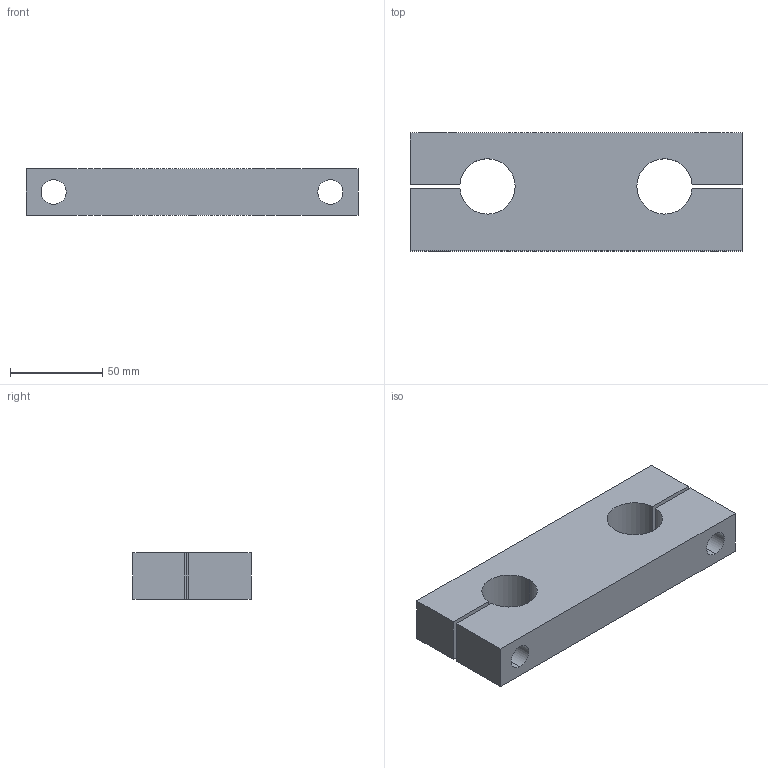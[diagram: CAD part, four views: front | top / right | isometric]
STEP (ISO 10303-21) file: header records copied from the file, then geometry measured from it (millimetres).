
FILE_DESCRIPTION (( 'STEP AP214' ), '1' );
FILE_NAME ('KTA-30.step', '2020-03-04T13:38:02', ( '' ), ( '' ), 'SwSTEP 2.0', 'SolidWorks 2019', '' );
FILE_SCHEMA (( 'AUTOMOTIVE_DESIGN' ));
Length unit declared in the file: millimetre
Products named in the file (1): KTA-30
Bounding box: 180 x 64 x 25 mm (x, y, z)
Volume: 226557.3 mm3; surface area: 44154.1 mm2
Topology: 1 solids, 1 shells, 35 faces, 89 edges, 57 vertices
Faces by surface type: cylinder 17, plane 14, cone 4
Entity records: 1103 total; most frequent: DIRECTION 195, CARTESIAN_POINT 180, ORIENTED_EDGE 174, EDGE_CURVE 87, AXIS2_PLACEMENT_3D 72, VERTEX_POINT 57, LINE 51, VECTOR 51
